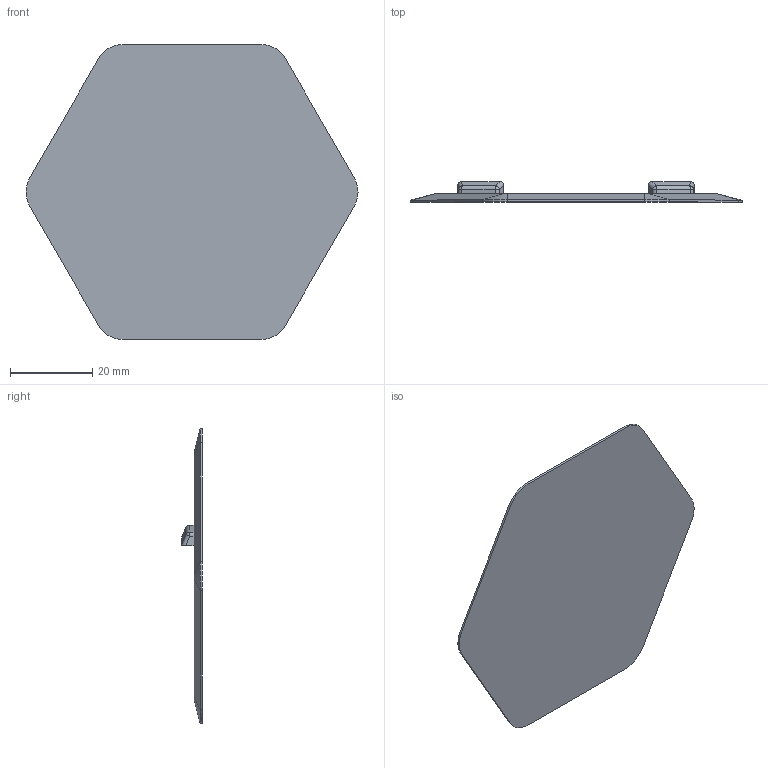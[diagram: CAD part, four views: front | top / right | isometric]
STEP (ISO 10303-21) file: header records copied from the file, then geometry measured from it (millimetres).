
FILE_DESCRIPTION (( 'STEP AP203' ), '1' );
FILE_NAME ('B1-base.step', '2023-08-21T09:10:56', ( '' ), ( '' ), 'SwSTEP 2.0', 'SolidWorks 2020', '' );
FILE_SCHEMA (( 'CONFIG_CONTROL_DESIGN' ));
Length unit declared in the file: millimetre
Products named in the file (1): B1-base
Bounding box: 80.97 x 4.99 x 72 mm (x, y, z)
Volume: 7452.1 mm3; surface area: 9444 mm2
Topology: 1 solids, 1 shells, 72 faces, 180 edges, 112 vertices
Faces by surface type: plane 36, cylinder 20, cone 12, sphere 4
Entity records: 2207 total; most frequent: CARTESIAN_POINT 425, ORIENTED_EDGE 360, DIRECTION 356, EDGE_CURVE 180, AXIS2_PLACEMENT_3D 123, VERTEX_POINT 112, VECTOR 110, LINE 110
